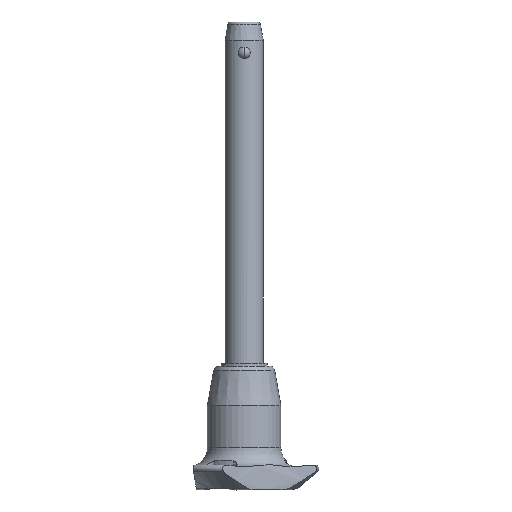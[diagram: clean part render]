
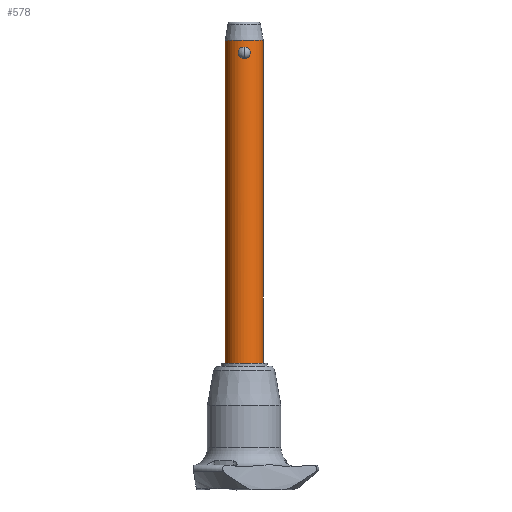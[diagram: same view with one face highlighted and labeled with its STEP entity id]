
A CAD part, front view. The second image highlights one B-rep face of the part: STEP entity #578.
In plain terms, the highlighted cylindrical face has radius 5 mm (diameter 10 mm), a partial arc.
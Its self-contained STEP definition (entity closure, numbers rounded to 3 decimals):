
#28 = DIRECTION ( 'NONE',  ( 1., 0., 0. ) ) ;
#41 = AXIS2_PLACEMENT_3D ( 'NONE', #1657, #2115, #2539 ) ;
#42 = LINE ( 'NONE', #2558, #1592 ) ;
#68 = EDGE_CURVE ( 'NONE', #276, #892, #679, .T. ) ;
#104 = ORIENTED_EDGE ( 'NONE', *, *, #68, .T. ) ;
#116 = CARTESIAN_POINT ( 'NONE',  ( -0.205, -5., 0. ) ) ;
#169 = CARTESIAN_POINT ( 'NONE',  ( -1.047, -4.89, 0.357 ) ) ;
#176 = DIRECTION ( 'NONE',  ( 1., 0., 0. ) ) ;
#266 = B_SPLINE_CURVE_WITH_KNOTS ( 'NONE', 3,
 ( #499, #1525, #1157, #1341, #295, #511, #2020, #1780, #473, #282, #1128, #1314, #1991, #1356, #921, #487, #2212, #1791, #1976, #719, #308, #2649, #2171, #272, #730, #2437 ),
 .UNSPECIFIED., .F., .F.,
 ( 4, 2, 2, 2, 2, 2, 2, 2, 2, 2, 2, 2, 4 ),
 ( 0.005, 0.006, 0.006, 0.006, 0.006, 0.007, 0.007, 0.008, 0.008, 0.009, 0.009, 0.009, 0.01 ),
 .UNSPECIFIED. ) ;
#272 = CARTESIAN_POINT ( 'NONE',  ( 0.412, -4.987, 2.996 ) ) ;
#276 = VERTEX_POINT ( 'NONE', #1887 ) ;
#282 = CARTESIAN_POINT ( 'NONE',  ( 1.384, -4.805, 0.735 ) ) ;
#295 = CARTESIAN_POINT ( 'NONE',  ( 0.792, -4.938, 0.19 ) ) ;
#308 = CARTESIAN_POINT ( 'NONE',  ( 0.966, -4.907, 2.738 ) ) ;
#314 = ORIENTED_EDGE ( 'NONE', *, *, #1239, .T. ) ;
#329 = CARTESIAN_POINT ( 'NONE',  ( 5., 0., 4.8 ) ) ;
#347 = CARTESIAN_POINT ( 'NONE',  ( -0.791, -4.938, 2.844 ) ) ;
#371 = CARTESIAN_POINT ( 'NONE',  ( -1.519, -4.764, 1.013 ) ) ;
#472 = CARTESIAN_POINT ( 'NONE',  ( 5., 0., -80. ) ) ;
#473 = CARTESIAN_POINT ( 'NONE',  ( 1.265, -4.838, 0.57 ) ) ;
#487 = CARTESIAN_POINT ( 'NONE',  ( 1.551, -4.753, 1.922 ) ) ;
#499 = CARTESIAN_POINT ( 'NONE',  ( 0., -5., 0. ) ) ;
#511 = CARTESIAN_POINT ( 'NONE',  ( 0.966, -4.907, 0.296 ) ) ;
#531 = CARTESIAN_POINT ( 'NONE',  ( -1.594, -4.739, 1.312 ) ) ;
#567 = CARTESIAN_POINT ( 'NONE',  ( -0.792, -4.938, 0.19 ) ) ;
#578 = ADVANCED_FACE ( 'NONE', ( #1461, #2716 ), #590, .T. ) ;
#590 = CYLINDRICAL_SURFACE ( 'NONE', #654, 5. ) ;
#636 = DIRECTION ( 'NONE',  ( 0., 0., 1. ) ) ;
#637 = EDGE_CURVE ( 'NONE', #2423, #1546, #266, .T. ) ;
#654 = AXIS2_PLACEMENT_3D ( 'NONE', #1433, #2112, #28 ) ;
#679 = LINE ( 'NONE', #472, #2338 ) ;
#719 = CARTESIAN_POINT ( 'NONE',  ( 1.048, -4.889, 2.676 ) ) ;
#730 = CARTESIAN_POINT ( 'NONE',  ( 0.208, -5., 3.033 ) ) ;
#739 = ORIENTED_EDGE ( 'NONE', *, *, #637, .F. ) ;
#759 = CARTESIAN_POINT ( 'NONE',  ( 0., -5., 0. ) ) ;
#769 = CARTESIAN_POINT ( 'NONE',  ( -1.394, -4.802, 0.731 ) ) ;
#892 = VERTEX_POINT ( 'NONE', #329 ) ;
#921 = CARTESIAN_POINT ( 'NONE',  ( 1.594, -4.739, 1.721 ) ) ;
#964 = CARTESIAN_POINT ( 'NONE',  ( -0.7, -4.952, 2.888 ) ) ;
#990 = ORIENTED_EDGE ( 'NONE', *, *, #1914, .F. ) ;
#1119 = B_SPLINE_CURVE_WITH_KNOTS ( 'NONE', 3,
 ( #2719, #2481, #2442, #964, #347, #1583, #1401, #2691, #2703, #1829, #1818, #2044, #1841, #2279, #531, #1379, #371, #769, #2469, #169, #1619, #567, #1414, #2022, #116, #759 ),
 .UNSPECIFIED., .F., .F.,
 ( 4, 2, 2, 2, 2, 2, 2, 2, 2, 2, 2, 2, 4 ),
 ( 0., 0.001, 0.001, 0.001, 0.002, 0.002, 0.002, 0.003, 0.003, 0.004, 0.004, 0.004, 0.005 ),
 .UNSPECIFIED. ) ;
#1128 = CARTESIAN_POINT ( 'NONE',  ( 1.434, -4.79, 0.822 ) ) ;
#1145 = EDGE_LOOP ( 'NONE', ( #990, #739 ) ) ;
#1157 = CARTESIAN_POINT ( 'NONE',  ( 0.412, -4.987, 0.037 ) ) ;
#1167 = ORIENTED_EDGE ( 'NONE', *, *, #2462, .F. ) ;
#1177 = VERTEX_POINT ( 'NONE', #2184 ) ;
#1233 = CARTESIAN_POINT ( 'NONE',  ( 0., 0., -80. ) ) ;
#1239 = EDGE_CURVE ( 'NONE', #892, #1177, #1948, .T. ) ;
#1314 = CARTESIAN_POINT ( 'NONE',  ( 1.56, -4.751, 1.103 ) ) ;
#1341 = CARTESIAN_POINT ( 'NONE',  ( 0.699, -4.952, 0.144 ) ) ;
#1356 = CARTESIAN_POINT ( 'NONE',  ( 1.604, -4.736, 1.619 ) ) ;
#1374 = AXIS2_PLACEMENT_3D ( 'NONE', #1233, #2121, #176 ) ;
#1379 = CARTESIAN_POINT ( 'NONE',  ( -1.551, -4.753, 1.11 ) ) ;
#1401 = CARTESIAN_POINT ( 'NONE',  ( -1.047, -4.89, 2.676 ) ) ;
#1414 = CARTESIAN_POINT ( 'NONE',  ( -0.699, -4.952, 0.145 ) ) ;
#1433 = CARTESIAN_POINT ( 'NONE',  ( 0., 0., -80. ) ) ;
#1461 = FACE_OUTER_BOUND ( 'NONE', #2657, .T. ) ;
#1525 = CARTESIAN_POINT ( 'NONE',  ( 0.205, -5., 0. ) ) ;
#1546 = VERTEX_POINT ( 'NONE', #2306 ) ;
#1583 = CARTESIAN_POINT ( 'NONE',  ( -0.965, -4.907, 2.738 ) ) ;
#1592 = VECTOR ( 'NONE', #2653, 1000. ) ;
#1619 = CARTESIAN_POINT ( 'NONE',  ( -0.966, -4.907, 0.296 ) ) ;
#1639 = CARTESIAN_POINT ( 'NONE',  ( -5., 0., -80. ) ) ;
#1657 = CARTESIAN_POINT ( 'NONE',  ( 0., 0., 4.8 ) ) ;
#1700 = VERTEX_POINT ( 'NONE', #1639 ) ;
#1732 = CIRCLE ( 'NONE', #1374, 5. ) ;
#1780 = CARTESIAN_POINT ( 'NONE',  ( 1.196, -4.855, 0.493 ) ) ;
#1791 = CARTESIAN_POINT ( 'NONE',  ( 1.395, -4.802, 2.301 ) ) ;
#1818 = CARTESIAN_POINT ( 'NONE',  ( -1.435, -4.79, 2.209 ) ) ;
#1829 = CARTESIAN_POINT ( 'NONE',  ( -1.383, -4.805, 2.299 ) ) ;
#1841 = CARTESIAN_POINT ( 'NONE',  ( -1.604, -4.736, 1.724 ) ) ;
#1853 = EDGE_CURVE ( 'NONE', #1700, #1177, #42, .T. ) ;
#1887 = CARTESIAN_POINT ( 'NONE',  ( 5., 0., -80. ) ) ;
#1914 = EDGE_CURVE ( 'NONE', #1546, #2423, #1119, .T. ) ;
#1948 = CIRCLE ( 'NONE', #41, 5. ) ;
#1976 = CARTESIAN_POINT ( 'NONE',  ( 1.272, -4.838, 2.47 ) ) ;
#1990 = ORIENTED_EDGE ( 'NONE', *, *, #1853, .F. ) ;
#1991 = CARTESIAN_POINT ( 'NONE',  ( 1.604, -4.736, 1.308 ) ) ;
#2020 = CARTESIAN_POINT ( 'NONE',  ( 1.047, -4.89, 0.356 ) ) ;
#2022 = CARTESIAN_POINT ( 'NONE',  ( -0.412, -4.987, 0.037 ) ) ;
#2044 = CARTESIAN_POINT ( 'NONE',  ( -1.56, -4.751, 1.931 ) ) ;
#2112 = DIRECTION ( 'NONE',  ( 0., 0., 1. ) ) ;
#2115 = DIRECTION ( 'NONE',  ( 0., 0., -1. ) ) ;
#2121 = DIRECTION ( 'NONE',  ( 0., 0., -1. ) ) ;
#2171 = CARTESIAN_POINT ( 'NONE',  ( 0.7, -4.952, 2.888 ) ) ;
#2184 = CARTESIAN_POINT ( 'NONE',  ( -5., 0., 4.8 ) ) ;
#2212 = CARTESIAN_POINT ( 'NONE',  ( 1.519, -4.764, 2.021 ) ) ;
#2279 = CARTESIAN_POINT ( 'NONE',  ( -1.604, -4.736, 1.416 ) ) ;
#2306 = CARTESIAN_POINT ( 'NONE',  ( 0., -5., 3.033 ) ) ;
#2338 = VECTOR ( 'NONE', #636, 1000. ) ;
#2423 = VERTEX_POINT ( 'NONE', #2556 ) ;
#2437 = CARTESIAN_POINT ( 'NONE',  ( 0., -5., 3.033 ) ) ;
#2442 = CARTESIAN_POINT ( 'NONE',  ( -0.412, -4.987, 2.997 ) ) ;
#2462 = EDGE_CURVE ( 'NONE', #276, #1700, #1732, .T. ) ;
#2469 = CARTESIAN_POINT ( 'NONE',  ( -1.272, -4.838, 0.564 ) ) ;
#2481 = CARTESIAN_POINT ( 'NONE',  ( -0.208, -5., 3.033 ) ) ;
#2539 = DIRECTION ( 'NONE',  ( 1., 0., 0. ) ) ;
#2556 = CARTESIAN_POINT ( 'NONE',  ( 0., -5., 0. ) ) ;
#2558 = CARTESIAN_POINT ( 'NONE',  ( -5., 0., -80. ) ) ;
#2649 = CARTESIAN_POINT ( 'NONE',  ( 0.792, -4.938, 2.844 ) ) ;
#2653 = DIRECTION ( 'NONE',  ( 0., 0., 1. ) ) ;
#2657 = EDGE_LOOP ( 'NONE', ( #1990, #1167, #104, #314 ) ) ;
#2691 = CARTESIAN_POINT ( 'NONE',  ( -1.197, -4.855, 2.539 ) ) ;
#2703 = CARTESIAN_POINT ( 'NONE',  ( -1.264, -4.838, 2.464 ) ) ;
#2716 = FACE_BOUND ( 'NONE', #1145, .T. ) ;
#2719 = CARTESIAN_POINT ( 'NONE',  ( 0., -5., 3.033 ) ) ;
